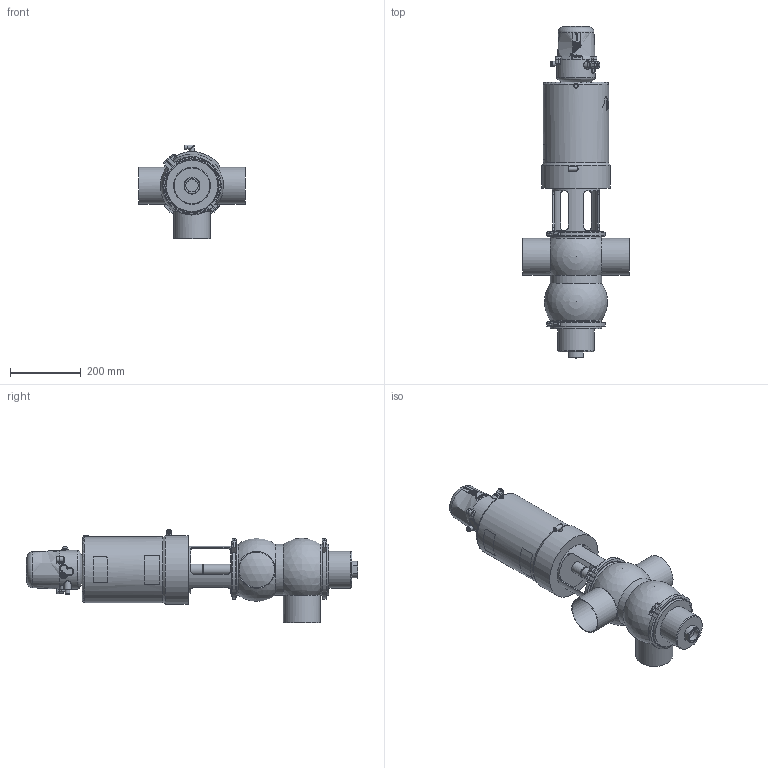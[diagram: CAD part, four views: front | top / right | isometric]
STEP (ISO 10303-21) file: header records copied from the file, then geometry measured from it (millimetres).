
FILE_DESCRIPTION (( 'STEP AP214' ), '1' );
FILE_NAME ('INNOVA S AB-90 W DIN 100 & C-TOP S_10.251.16.0011.STEP', '2024-08-19T11:01:46', ( '' ), ( '' ), 'SwSTEP 2.0', 'SolidWorks 2023', '' );
FILE_SCHEMA (( 'AUTOMOTIVE_DESIGN' ));
Length unit declared in the file: millimetre
Products named in the file (7): INNOVA S AB-90 W DIN 100 & C-TOP S_10.251.16.0011; 10.240.15.0001_DN 100; 10.426.15.0001_C-TOP S - 1 EV; 10.251.15.0003_DIN 100; 10.251.15.0002_DN 100; 10.251.15.0001_DN 100; 10.250.15.0002_Type S T3
Assembly tree (7 placements, depth 2):
  INNOVA S AB-90 W DIN 100 & C-TOP S_10.251.16.0011
    10.251.15.0001_DN 100
    10.250.15.0002_Type S T3
    10.426.15.0001_C-TOP S - 1 EV
    10.251.15.0003_DIN 100
    10.240.15.0001_DN 100  x2
    10.251.15.0002_DN 100
Bounding box: 300 x 936 x 265 mm (x, y, z)
Volume: 16370425.2 mm3; surface area: 875347.4 mm2
Topology: 7 solids, 7 shells, 1189 faces, 2883 edges, 1915 vertices
Faces by surface type: plane 413, cylinder 371, cone 202, bspline 160, torus 33, sphere 10
Full cylindrical faces by diameter (mm): 0.371 x17, 0.512 x16, 0.658 x16, 0.795 x16, 0.94 x15, 1.098 x15, 1.241 x13, 1.382 x13, 1.523 x11, 1.669 x10, 2.201 x1, 4.2 x2, 5 x1, 5.5 x2, 6 x3, 6.15 x1, 8 x5, 8.5 x1, 10 x1, 10.5 x2, 11 x2, 12.5 x6, 13 x2, 13.5 x2, 17 x3, 20 x2, 22 x2, 30.5 x1, 32 x1, 35 x1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
Entity records: 59424 total; most frequent: CARTESIAN_POINT 28545, ORIENTED_EDGE 4608, DIRECTION 3715, EDGE_CURVE 2304, VERTEX_POINT 1630, EDGE_LOOP 1582, AXIS2_PLACEMENT_3D 1518, FACE_OUTER_BOUND 1344
